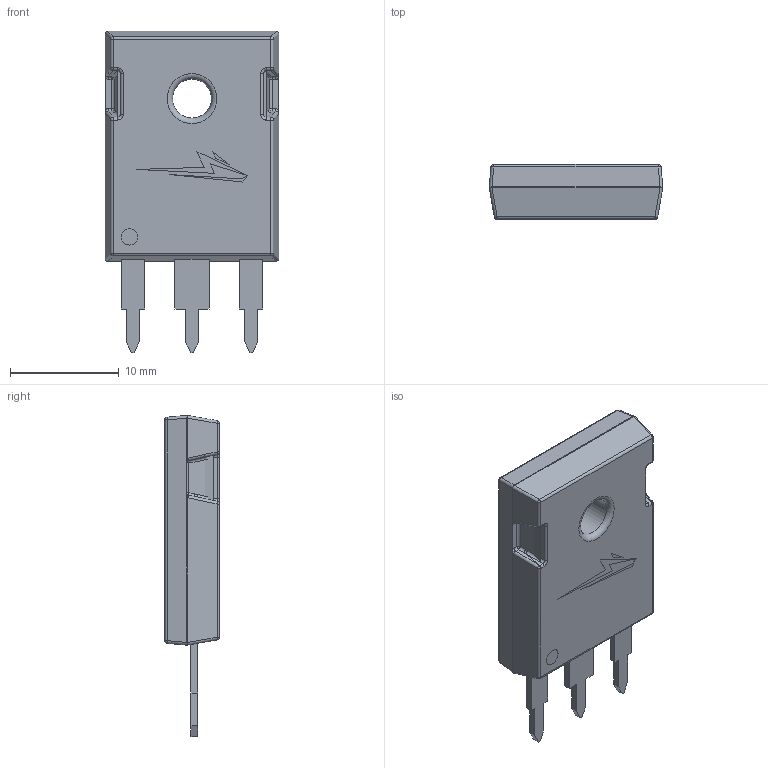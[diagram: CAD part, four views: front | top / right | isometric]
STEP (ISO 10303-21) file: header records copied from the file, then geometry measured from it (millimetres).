
FILE_DESCRIPTION(/* description */ ('STEP AP214'),/* implementation_level */ '2;1');
FILE_NAME(/* name */ 'C:\Users\thall\Desktop\Trans_Wolfspeed_C3M0045065D_eec.stp',/* time_stamp */ '2021-10-20T17:23:04+03:00',/* author */ ('thall'),/* organization */ (''),/* preprocessor_version */ 'ST-DEVELOPER v18.1',/* originating_system */ 'Autodesk Inventor 2021',/* authorisation */ '');
FILE_SCHEMA (('AUTOMOTIVE_DESIGN { 1 0 10303 214 3 1 1 }'));
Length unit declared in the file: millimetre
Products named in the file (6): Trans_Wolfspeed_C3M0045065D_eec; Body; Pins; 1.5mm; Wolfspeed Logo; Rear Tab
Assembly tree (5 placements, depth 2):
  Trans_Wolfspeed_C3M0045065D_eec
    Body
    Pins
    1.5mm
    Wolfspeed Logo
    Rear Tab
Bounding box: 15.94 x 5.02 x 29.5 mm (x, y, z)
Volume: 2377.6 mm3; surface area: 1893.8 mm2
Topology: 8 solids, 8 shells, 202 faces, 502 edges, 306 vertices
Faces by surface type: plane 122, cylinder 50, sphere 16, bspline 12, torus 2
Full cylindrical faces by diameter (mm): 1.5 x2, 3.58 x1, 7.18 x2
Entity records: 6334 total; most frequent: CARTESIAN_POINT 1322, DIRECTION 1013, ORIENTED_EDGE 978, EDGE_CURVE 489, AXIS2_PLACEMENT_3D 339, LINE 335, VECTOR 335, VERTEX_POINT 306
